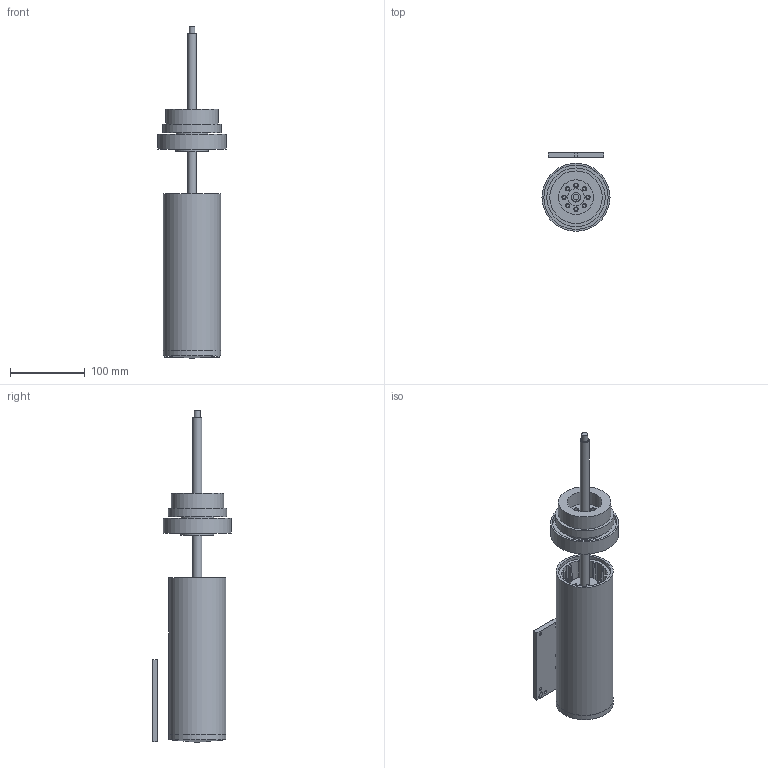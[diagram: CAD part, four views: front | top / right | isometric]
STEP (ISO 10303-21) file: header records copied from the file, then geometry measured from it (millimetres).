
FILE_DESCRIPTION(/* description */ (''),/* implementation_level */ '2;1');
FILE_NAME(/* name */ 'G:/Dropbox/CBA/projects/machines/endeffector/mudstick/cad/Pusher v7.step',/* time_stamp */ '2019-10-02T17:30:10-04:00',/* author */ (''),/* organization */ (''),/* preprocessor_version */ 'ST-DEVELOPER v18',/* originating_system */ 'Autodesk Translation Framework v8.6.0.1094',/* authorisation */ '');
FILE_SCHEMA (('AUTOMOTIVE_DESIGN { 1 0 10303 214 3 1 1 }'));
Length unit declared in the file: millimetre
Products named in the file (1): HOTPLATE Pusher
Bounding box: 91.24 x 105.62 x 445 mm (x, y, z)
Volume: 618576.3 mm3; surface area: 247218.1 mm2
Topology: 9 solids, 9 shells, 523 faces, 1311 edges, 819 vertices
Faces by surface type: bspline 175, cylinder 119, plane 67, cone 60, sphere 55, torus 47
Full cylindrical faces by diameter (mm): 4.2 x8, 4.3 x16, 5.8 x16, 7 x1, 8 x2, 10 x1, 10.5 x1, 12 x1, 22.5 x2, 28.209 x1, 40 x2, 41.547 x1, 44 x2, 46 x1, 46.394 x1, 52 x2, 62.16 x1, 66 x1, 69 x4, 69.9 x1, 70 x1, 70.394 x1, 76.6 x2, 78.394 x1, 86.16 x1, 91.24 x1
Entity records: 19850 total; most frequent: CARTESIAN_POINT 7683, ORIENTED_EDGE 2622, DIRECTION 2440, EDGE_CURVE 1311, AXIS2_PLACEMENT_3D 1093, VERTEX_POINT 821, CIRCLE 744, EDGE_LOOP 604
